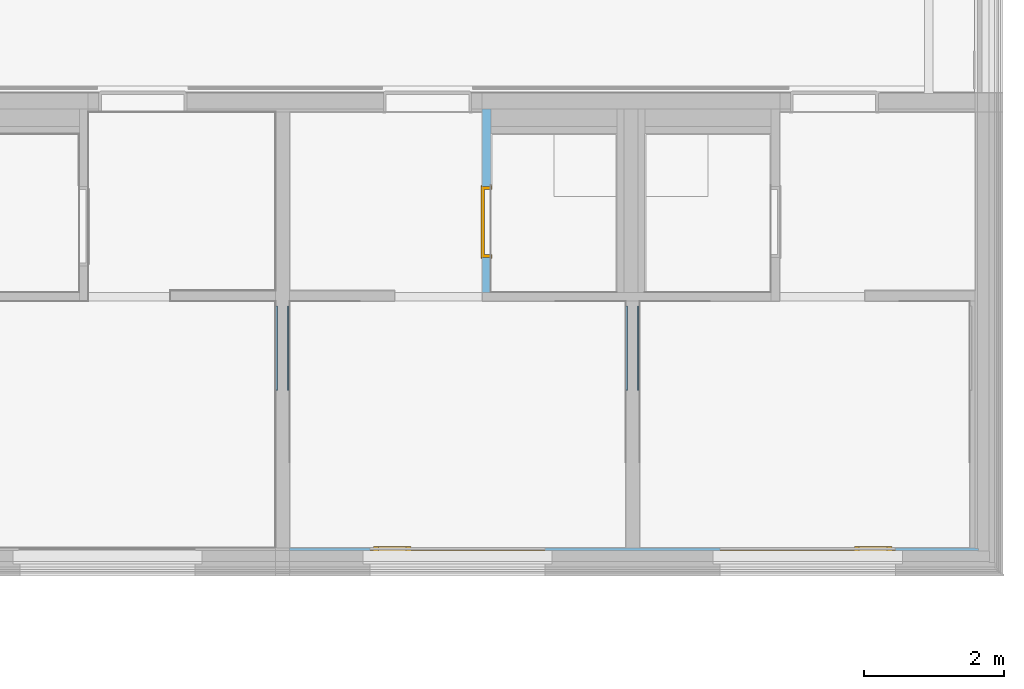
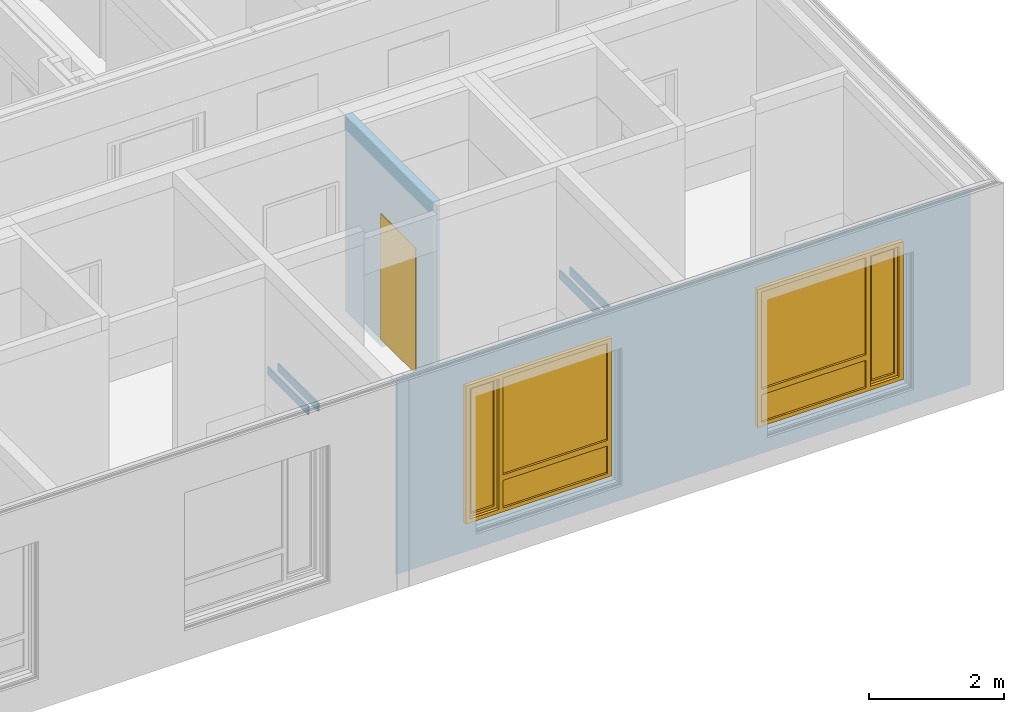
# One storey, part 131 of 222: 4 walls, 2 windows, 1 door, 3 openings, plus 2 elements that do not belong to this part.
"""IFC4 building model written with IfcOpenShell, lengths in metres."""

from ifc_helpers import new_model, entity, si_unit, converted_unit, derived_unit, frame, frame_2d, origin, origin_with_axes, place, context, subcontext, project, spatial, polyline, rectangle, outline, extrude, closed_shell, open_shell, faceted_brep, surface_model, source, transform, mapped, material, type_object, element, fill, save


model = new_model("IFC4")

# Units and contexts
model_context = context("Model", 3, precision=1e-05, world=origin())
body_context = subcontext(model_context, "Body", "Model", "MODEL_VIEW")
ifc_project = project(units=[si_unit("LENGTHUNIT", "METRE"), si_unit("AREAUNIT", "SQUARE_METRE"), si_unit("VOLUMEUNIT", "CUBIC_METRE"), si_unit("MASSUNIT", "GRAM", prefix="KILO"), converted_unit("PLANEANGLEUNIT", "DEGREE", entity("IfcPlaneAngleMeasure", 0.0174532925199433), si_unit("PLANEANGLEUNIT", "RADIAN"), dimensions=[0, 0, 0, 0, 0, 0, 0]), derived_unit("THERMALTRANSMITTANCEUNIT", [(si_unit("POWERUNIT", "WATT"), 1), (si_unit("THERMODYNAMICTEMPERATUREUNIT", "KELVIN"), -1), (si_unit("LENGTHUNIT", "METRE"), -2)]), derived_unit("VOLUMETRICFLOWRATEUNIT", [(si_unit("LENGTHUNIT", "METRE"), 3), (converted_unit("TIMEUNIT", "hour", entity("IfcTimeMeasure", 3600.0), si_unit("TIMEUNIT", "SECOND"), dimensions=[0, 0, 1, 0, 0, 0, 0]), -1), (si_unit("LENGTHUNIT", "METRE"), -1)])], contexts=[model_context])

# Site, building, storey
site_placement = place(None, origin())
site = spatial("IfcSite", under=ifc_project, at=site_placement, Name="Psychiatrie Neubau Wunstorf", CompositionType="ELEMENT")
building_placement = place(site_placement, origin())
building = spatial("IfcBuilding", under=site, at=building_placement, Name="Neubau H2 Stationsgebäude", CompositionType="ELEMENT")
storey_placement = place(building_placement, frame((0.0, 0.0, 3.6)))
storey = spatial("IfcBuildingStorey", under=building, at=storey_placement, Name="H2 Ebene +1", CompositionType="ELEMENT", Elevation=3.6)

# Wall, openings, windows
ifc_material_1 = material(Name="WA-LB")
wall_1_placement = place(storey_placement, frame((105.889, -1.16399999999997, 0.0), z_axis=(0.0, 0.0, 1.0), x_axis=(-1.0, 0.0, 0.0)))
wall_1 = element("IfcWall", 1, at=wall_1_placement, inside=storey, material=ifc_material_1, context=body_context, shape_type="SweptSolid", body=[
    extrude(outline(polyline([(-9.78900000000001, -0.036), (0.0, -0.036), (0.0, 0.0), (-9.83600000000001, 0.0), (-9.83600000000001, -0.0250000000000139), (-9.78900000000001, -0.0250000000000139), (-9.78900000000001, -0.036)])), frame((9.78900000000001, 0.036, 0.0), z_axis=(0.0, 0.0, 1.0), x_axis=(1.0, 0.0, 0.0)), (0.0, 0.0, 1.0), 3.55),
])
opening_1_placement = place(wall_1_placement, frame((1.13899995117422, 0.0, 0.55), z_axis=(0.0, 1.0, 0.0), x_axis=(0.0, 0.0, 1.0)))
opening_1 = element("IfcOpeningElement", 2, at=opening_1_placement, cuts=wall_1, Name="Fensteröffnung", ObjectType="Opening", context=body_context, shape_type="SweptSolid", body=[
    extrude(outline(polyline([(2.5, 2.5), (2.5, 0.0), (0.0, 0.0), (0.0, 2.5), (2.5, 2.5)])), origin_with_axes(), (0.0, 0.0, 1.0), 0.036),
])
opening_2_placement = place(wall_1_placement, frame((6.13899995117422, 0.0, 0.55), z_axis=(0.0, 1.0, 0.0), x_axis=(0.0, 0.0, 1.0)))
opening_2 = element("IfcOpeningElement", 3, at=opening_2_placement, cuts=wall_1, Name="Fensteröffnung", ObjectType="Opening", context=body_context, shape_type="SweptSolid", body=[
    extrude(outline(polyline([(2.5, 2.5), (2.5, 0.0), (0.0, 0.0), (0.0, 2.5), (2.5, 2.5)])), origin_with_axes(), (0.0, 0.0, 1.0), 0.036),
])
shared_shape_1 = source(origin_with_axes(), body_context, "Body", "SurfaceModel", [
    surface_model("IfcShellBasedSurfaceModel", [(0.0, 0.0, 2.5), (0.07, 0.0, 2.5), (0.07, 0.0, 0.0), (0.0, 0.0, 0.0), (0.0, 0.0699999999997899, 0.0), (0.07, 0.0699999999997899, 0.0), (0.07, 0.0699999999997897, 2.5), (0.0, 0.0699999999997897, 2.5)], [closed_shell([[[0, 1, 2, 3]], [[4, 5, 6, 7]], [[3, 4, 7, 0]], [[2, 5, 4, 3]], [[1, 6, 5, 2]], [[0, 7, 6, 1]]], orient=[[False], [False], [False], [False], [False], [False]])]),
    surface_model("IfcShellBasedSurfaceModel", [(2.43, 0.0, 2.5), (2.5, 0.0, 2.5), (2.5, 0.0, 0.0), (2.43, 0.0, 0.0), (2.43, 0.0699999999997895, 0.0), (2.5, 0.0699999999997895, 0.0), (2.5, 0.069999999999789, 2.5), (2.43, 0.069999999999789, 2.5)], [closed_shell([[[0, 1, 2, 3]], [[4, 5, 6, 7]], [[3, 4, 7, 0]], [[2, 5, 4, 3]], [[1, 6, 5, 2]], [[0, 7, 6, 1]]], orient=[[False], [False], [False], [False], [False], [False]])]),
    surface_model("IfcShellBasedSurfaceModel", [(0.07, 0.0, 0.07), (2.43, 0.0, 0.07), (2.43, 0.0, 0.0), (0.07, 0.0, 0.0), (0.07, 0.0699999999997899, 0.0), (2.43, 0.0699999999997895, 0.0), (2.43, 0.0699999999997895, 0.07), (0.07, 0.0699999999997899, 0.07)], [closed_shell([[[0, 1, 2, 3]], [[4, 5, 6, 7]], [[3, 4, 7, 0]], [[2, 5, 4, 3]], [[1, 6, 5, 2]], [[0, 7, 6, 1]]], orient=[[False], [False], [False], [False], [False], [False]])]),
    surface_model("IfcShellBasedSurfaceModel", [(0.07, 0.0, 2.5), (2.43, 0.0, 2.5), (2.43, 0.0, 2.43), (0.07, 0.0, 2.43), (0.07, 0.0699999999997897, 2.43), (2.43, 0.069999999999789, 2.43), (2.43, 0.069999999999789, 2.5), (0.07, 0.0699999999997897, 2.5)], [closed_shell([[[0, 1, 2, 3]], [[4, 5, 6, 7]], [[3, 4, 7, 0]], [[2, 5, 4, 3]], [[1, 6, 5, 2]], [[0, 7, 6, 1]]], orient=[[False], [False], [False], [False], [False], [False]])]),
    surface_model("IfcShellBasedSurfaceModel", [(0.565714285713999, 0.0, 2.43), (0.635714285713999, 0.0, 2.43), (0.635714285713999, 0.0, 0.07), (0.565714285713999, 0.0, 0.07), (0.565714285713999, 0.0699999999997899, 0.07), (0.635714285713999, 0.0699999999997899, 0.07), (0.635714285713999, 0.0699999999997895, 2.43), (0.565714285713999, 0.0699999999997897, 2.43)], [closed_shell([[[0, 1, 2, 3]], [[4, 5, 6, 7]], [[3, 4, 7, 0]], [[2, 5, 4, 3]], [[1, 6, 5, 2]], [[0, 7, 6, 1]]], orient=[[False], [False], [False], [False], [False], [False]])]),
    surface_model("IfcShellBasedSurfaceModel", [(0.05, -0.0500000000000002, 2.45), (0.12, -0.0500000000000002, 2.45), (0.12, -0.05, 0.05), (0.05, -0.05, 0.05), (0.05, 0.0199999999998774, 0.05), (0.12, 0.0199999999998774, 0.05), (0.12, 0.0199999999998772, 2.45), (0.05, 0.0199999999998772, 2.45)], [closed_shell([[[0, 1, 2, 3]], [[4, 5, 6, 7]], [[3, 4, 7, 0]], [[2, 5, 4, 3]], [[1, 6, 5, 2]], [[0, 7, 6, 1]]], orient=[[False], [False], [False], [False], [False], [False]])]),
    surface_model("IfcShellBasedSurfaceModel", [(0.515714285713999, -0.0500000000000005, 2.45), (0.585714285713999, -0.0500000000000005, 2.45), (0.585714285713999, -0.0500000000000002, 0.05), (0.515714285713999, -0.0500000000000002, 0.05), (0.515714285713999, 0.0199999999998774, 0.05), (0.585714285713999, 0.0199999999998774, 0.05), (0.585714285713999, 0.019999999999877, 2.45), (0.515714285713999, 0.019999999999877, 2.45)], [closed_shell([[[0, 1, 2, 3]], [[4, 5, 6, 7]], [[3, 4, 7, 0]], [[2, 5, 4, 3]], [[1, 6, 5, 2]], [[0, 7, 6, 1]]], orient=[[False], [False], [False], [False], [False], [False]])]),
    surface_model("IfcShellBasedSurfaceModel", [(0.12, -0.05, 0.12), (0.515714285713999, -0.0500000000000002, 0.12), (0.515714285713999, -0.0500000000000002, 0.05), (0.12, -0.05, 0.05), (0.12, 0.0199999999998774, 0.05), (0.515714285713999, 0.0199999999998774, 0.05), (0.515714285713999, 0.0199999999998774, 0.12), (0.12, 0.0199999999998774, 0.12)], [closed_shell([[[0, 1, 2, 3]], [[4, 5, 6, 7]], [[3, 4, 7, 0]], [[2, 5, 4, 3]], [[1, 6, 5, 2]], [[0, 7, 6, 1]]], orient=[[False], [False], [False], [False], [False], [False]])]),
    surface_model("IfcShellBasedSurfaceModel", [(0.12, -0.0500000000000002, 2.45), (0.515714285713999, -0.0500000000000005, 2.45), (0.515714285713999, -0.0500000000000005, 2.38), (0.12, -0.0500000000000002, 2.38), (0.12, 0.0199999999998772, 2.38), (0.515714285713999, 0.019999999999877, 2.38), (0.515714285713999, 0.019999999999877, 2.45), (0.12, 0.0199999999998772, 2.45)], [closed_shell([[[0, 1, 2, 3]], [[4, 5, 6, 7]], [[3, 4, 7, 0]], [[2, 5, 4, 3]], [[1, 6, 5, 2]], [[0, 7, 6, 1]]], orient=[[False], [False], [False], [False], [False], [False]])]),
    surface_model("IfcShellBasedSurfaceModel", [(0.635714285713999, 0.0, 0.67), (2.43, 0.0, 0.67), (2.43, 0.0, 0.57), (0.635714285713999, 0.0, 0.57), (0.635714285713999, 0.0699999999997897, 0.57), (2.43, 0.0699999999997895, 0.57), (2.43, 0.0699999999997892, 0.67), (0.635714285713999, 0.0699999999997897, 0.67)], [closed_shell([[[0, 1, 2, 3]], [[4, 5, 6, 7]], [[3, 4, 7, 0]], [[2, 5, 4, 3]], [[1, 6, 5, 2]], [[0, 7, 6, 1]]], orient=[[False], [False], [False], [False], [False], [False]])]),
    surface_model("IfcShellBasedSurfaceModel", [(0.12, -0.0150000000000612, 0.12), (0.12, -0.0150000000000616, 2.38), (0.515714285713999, -0.0150000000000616, 2.38), (0.515714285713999, -0.0150000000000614, 0.12)], [open_shell([[[0, 1, 2, 3]]], orient=[[False]])]),
    surface_model("IfcShellBasedSurfaceModel", [(0.635714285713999, 0.0349999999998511, 0.07), (0.635714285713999, 0.0349999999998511, 0.57), (2.43, 0.0349999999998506, 0.57), (2.43, 0.0349999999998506, 0.07)], [open_shell([[[0, 1, 2, 3]]], orient=[[False]])]),
    surface_model("IfcShellBasedSurfaceModel", [(0.635714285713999, 0.0349999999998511, 0.67), (0.635714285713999, 0.0349999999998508, 2.43), (2.43, 0.0349999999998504, 2.43), (2.43, 0.0349999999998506, 0.67)], [open_shell([[[0, 1, 2, 3]]], orient=[[False]])]),
])
window_1_placement = place(opening_1_placement, frame((0.0, 0.0, 0.03), z_axis=(1.0, 0.0, 0.0), x_axis=(0.0, 1.0, 0.0)))
window_1 = element("IfcWindow", 4, at=window_1_placement, inside=storey, Name="Fenster", OverallHeight=2.5, OverallWidth=2.5, PartitioningType="USERDEFINED", PredefinedType="WINDOW", context=body_context, shape_type="MappedRepresentation", body=[
    mapped(shared_shape_1, transform((0.0, 0.0, 0.0), x_axis=(1.0, 0.0, 0.0), y_axis=(0.0, 1.0, 0.0), z_axis=(0.0, 0.0, 1.0), scale=1.0)),
])
fill(opening_1, window_1)
shared_shape_2 = source(origin_with_axes(), body_context, "Body", "SurfaceModel", [
    surface_model("IfcShellBasedSurfaceModel", [(2.5, 0.0, 2.5), (2.5, 0.0, 0.0), (2.43, 0.0, 0.0), (2.43, 0.0, 2.5), (2.5, 0.0699999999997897, 0.0), (2.5, 0.0699999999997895, 2.5), (2.43, 0.0699999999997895, 2.5), (2.43, 0.0699999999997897, 0.0)], [closed_shell([[[0, 1, 2, 3]], [[4, 5, 6, 7]], [[1, 0, 5, 4]], [[2, 1, 4, 7]], [[3, 2, 7, 6]], [[0, 3, 6, 5]]], orient=[[False], [False], [False], [False], [False], [False]])]),
    surface_model("IfcShellBasedSurfaceModel", [(0.07, 0.0, 2.5), (0.07, 0.0, 0.0), (0.0, 0.0, 0.0), (0.0, 0.0, 2.5), (0.07, 0.0699999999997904, 0.0), (0.07, 0.0699999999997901, 2.5), (0.0, 0.0699999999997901, 2.5), (0.0, 0.0699999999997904, 0.0)], [closed_shell([[[0, 1, 2, 3]], [[4, 5, 6, 7]], [[1, 0, 5, 4]], [[2, 1, 4, 7]], [[3, 2, 7, 6]], [[0, 3, 6, 5]]], orient=[[False], [False], [False], [False], [False], [False]])]),
    surface_model("IfcShellBasedSurfaceModel", [(2.43, 0.0, 0.07), (2.43, 0.0, 0.0), (0.07, 0.0, 0.0), (0.07, 0.0, 0.07), (2.43, 0.0699999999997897, 0.0), (2.43, 0.0699999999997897, 0.07), (0.07, 0.0699999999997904, 0.07), (0.07, 0.0699999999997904, 0.0)], [closed_shell([[[0, 1, 2, 3]], [[4, 5, 6, 7]], [[1, 0, 5, 4]], [[2, 1, 4, 7]], [[3, 2, 7, 6]], [[0, 3, 6, 5]]], orient=[[False], [False], [False], [False], [False], [False]])]),
    surface_model("IfcShellBasedSurfaceModel", [(2.43, 0.0, 2.5), (2.43, 0.0, 2.43), (0.07, 0.0, 2.43), (0.07, 0.0, 2.5), (2.43, 0.0699999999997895, 2.43), (2.43, 0.0699999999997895, 2.5), (0.07, 0.0699999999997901, 2.5), (0.07, 0.0699999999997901, 2.43)], [closed_shell([[[0, 1, 2, 3]], [[4, 5, 6, 7]], [[1, 0, 5, 4]], [[2, 1, 4, 7]], [[3, 2, 7, 6]], [[0, 3, 6, 5]]], orient=[[False], [False], [False], [False], [False], [False]])]),
    surface_model("IfcShellBasedSurfaceModel", [(1.934285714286, 0.0, 2.43), (1.934285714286, 0.0, 0.07), (1.864285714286, 0.0, 0.07), (1.864285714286, 0.0, 2.43), (1.934285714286, 0.0699999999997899, 0.07), (1.934285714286, 0.0699999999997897, 2.43), (1.864285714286, 0.0699999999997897, 2.43), (1.864285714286, 0.0699999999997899, 0.07)], [closed_shell([[[0, 1, 2, 3]], [[4, 5, 6, 7]], [[1, 0, 5, 4]], [[2, 1, 4, 7]], [[3, 2, 7, 6]], [[0, 3, 6, 5]]], orient=[[False], [False], [False], [False], [False], [False]])]),
    surface_model("IfcShellBasedSurfaceModel", [(2.45, -0.0500000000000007, 2.45), (2.45, -0.0500000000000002, 0.05), (2.38, -0.0500000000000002, 0.05), (2.38, -0.0500000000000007, 2.45), (2.45, 0.0199999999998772, 0.05), (2.45, 0.019999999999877, 2.45), (2.38, 0.019999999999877, 2.45), (2.38, 0.0199999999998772, 0.05)], [closed_shell([[[0, 1, 2, 3]], [[4, 5, 6, 7]], [[1, 0, 5, 4]], [[2, 1, 4, 7]], [[3, 2, 7, 6]], [[0, 3, 6, 5]]], orient=[[False], [False], [False], [False], [False], [False]])]),
    surface_model("IfcShellBasedSurfaceModel", [(1.984285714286, -0.0500000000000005, 2.45), (1.984285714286, -0.0500000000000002, 0.05), (1.914285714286, -0.0500000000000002, 0.05), (1.914285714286, -0.0500000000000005, 2.45), (1.984285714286, 0.0199999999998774, 0.05), (1.984285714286, 0.019999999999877, 2.45), (1.914285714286, 0.019999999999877, 2.45), (1.914285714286, 0.0199999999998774, 0.05)], [closed_shell([[[0, 1, 2, 3]], [[4, 5, 6, 7]], [[1, 0, 5, 4]], [[2, 1, 4, 7]], [[3, 2, 7, 6]], [[0, 3, 6, 5]]], orient=[[False], [False], [False], [False], [False], [False]])]),
    surface_model("IfcShellBasedSurfaceModel", [(2.38, -0.0500000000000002, 0.12), (2.38, -0.0500000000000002, 0.05), (1.984285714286, -0.0500000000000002, 0.05), (1.984285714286, -0.0500000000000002, 0.12), (2.38, 0.0199999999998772, 0.05), (2.38, 0.0199999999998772, 0.12), (1.984285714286, 0.0199999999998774, 0.12), (1.984285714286, 0.0199999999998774, 0.05)], [closed_shell([[[0, 1, 2, 3]], [[4, 5, 6, 7]], [[1, 0, 5, 4]], [[2, 1, 4, 7]], [[3, 2, 7, 6]], [[0, 3, 6, 5]]], orient=[[False], [False], [False], [False], [False], [False]])]),
    surface_model("IfcShellBasedSurfaceModel", [(2.38, -0.0500000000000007, 2.45), (2.38, -0.0500000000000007, 2.38), (1.984285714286, -0.0500000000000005, 2.38), (1.984285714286, -0.0500000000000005, 2.45), (2.38, 0.019999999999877, 2.38), (2.38, 0.019999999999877, 2.45), (1.984285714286, 0.019999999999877, 2.45), (1.984285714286, 0.019999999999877, 2.38)], [closed_shell([[[0, 1, 2, 3]], [[4, 5, 6, 7]], [[1, 0, 5, 4]], [[2, 1, 4, 7]], [[3, 2, 7, 6]], [[0, 3, 6, 5]]], orient=[[False], [False], [False], [False], [False], [False]])]),
    surface_model("IfcShellBasedSurfaceModel", [(1.864285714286, 0.0, 0.67), (1.864285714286, 0.0, 0.57), (0.07, 0.0, 0.57), (0.07, 0.0, 0.67), (1.864285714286, 0.0699999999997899, 0.57), (1.864285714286, 0.0699999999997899, 0.67), (0.07, 0.0699999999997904, 0.67), (0.07, 0.0699999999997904, 0.57)], [closed_shell([[[0, 1, 2, 3]], [[4, 5, 6, 7]], [[1, 0, 5, 4]], [[2, 1, 4, 7]], [[3, 2, 7, 6]], [[0, 3, 6, 5]]], orient=[[False], [False], [False], [False], [False], [False]])]),
    surface_model("IfcShellBasedSurfaceModel", [(2.38, -0.0150000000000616, 0.12), (1.984285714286, -0.0150000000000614, 0.12), (1.984285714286, -0.0150000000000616, 2.38), (2.38, -0.0150000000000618, 2.38)], [open_shell([[[0, 1, 2, 3]]], orient=[[False]])]),
    surface_model("IfcShellBasedSurfaceModel", [(1.864285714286, 0.0349999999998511, 0.07), (0.07, 0.0349999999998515, 0.07), (0.07, 0.0349999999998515, 0.57), (1.864285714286, 0.0349999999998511, 0.57)], [open_shell([[[0, 1, 2, 3]]], orient=[[False]])]),
    surface_model("IfcShellBasedSurfaceModel", [(1.864285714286, 0.0349999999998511, 0.67), (0.07, 0.0349999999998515, 0.67), (0.07, 0.0349999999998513, 2.43), (1.864285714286, 0.0349999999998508, 2.43)], [open_shell([[[0, 1, 2, 3]]], orient=[[False]])]),
])
window_2_placement = place(opening_2_placement, frame((0.0, 0.0, 0.03), z_axis=(1.0, 0.0, 0.0), x_axis=(0.0, 1.0, 0.0)))
window_2 = element("IfcWindow", 5, at=window_2_placement, inside=storey, Name="Fenster", OverallHeight=2.5, OverallWidth=2.5, PartitioningType="USERDEFINED", PredefinedType="WINDOW", context=body_context, shape_type="MappedRepresentation", body=[
    mapped(shared_shape_2, transform((0.0, 0.0, 0.0), x_axis=(1.0, 0.0, 0.0), y_axis=(0.0, 1.0, 0.0), z_axis=(0.0, 0.0, 1.0), scale=1.0)),
])
fill(opening_2, window_2)

# Wall, opening, door
ifc_material_2 = material(Name="WI-LB")
wall_2_placement = place(storey_placement, frame((98.85, 5.1005, 0.0), z_axis=(0.0, 0.0, 1.0), x_axis=(0.0, -1.0, 0.0)))
wall_2 = element("IfcWall", 6, at=wall_2_placement, inside=storey, material=ifc_material_2, context=body_context, shape_type="SweptSolid", body=[
    extrude(rectangle(XDim=2.61499999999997, YDim=0.125, at=frame_2d((1.30749999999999, 0.0625), x_axis=(1.0, 0.0))), origin_with_axes(), (0.0, 0.0, 1.0), 3.55),
])
opening_3_placement = place(wall_2_placement, frame((2.11499999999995, 0.125, 0.0), z_axis=(0.0, -1.0, 0.0), x_axis=(0.0, 0.0, 1.0)))
opening_3 = element("IfcOpeningElement", 7, at=opening_3_placement, cuts=wall_2, Name="Türöffnung", ObjectType="Opening", context=body_context, shape_type="SweptSolid", body=[
    extrude(outline(polyline([(2.41, 1.01), (2.41, 0.0), (0.0, 0.0), (0.0, 1.01), (2.41, 1.01)])), origin_with_axes(), (0.0, 0.0, 1.0), 0.125),
])
ifc_material_3 = material(Name="TI-1F-UZ-D-N")
door_type = type_object("IfcDoorType", Name="SMT", OperationType="SINGLE_SWING_RIGHT", ParameterTakesPrecedence=False, PredefinedType="DOOR")
shared_shape_3 = source(origin_with_axes(), body_context, "Body", "Brep", [
    faceted_brep([(1.05, 0.0125000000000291, 0.0), (1.05, 0.112500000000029, 0.0), (1.01, 0.112500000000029, 0.0), (1.01, 0.0125000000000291, 0.0), (1.05, 0.112500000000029, 3.55), (1.05, 0.0125000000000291, 3.55), (1.01, 0.0125000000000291, 3.55), (1.01, 0.112500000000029, 3.55)], [[[0, 1, 2, 3]], [[4, 5, 6, 7]], [[1, 0, 5, 4]], [[2, 1, 4, 7]], [[3, 2, 7, 6]], [[0, 3, 6, 5]]], orient=[[False], [False], [False], [False], [False], [False]]),
    faceted_brep([(0.0, 0.0125000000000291, 0.0), (0.0, 0.112500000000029, 0.0), (-0.0400000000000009, 0.112500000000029, 0.0), (-0.0400000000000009, 0.0125000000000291, 0.0), (0.0, 0.112500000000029, 3.55), (0.0, 0.0125000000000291, 3.55), (-0.0400000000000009, 0.0125000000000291, 3.55), (-0.0400000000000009, 0.112500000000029, 3.55)], [[[0, 1, 2, 3]], [[4, 5, 6, 7]], [[1, 0, 5, 4]], [[2, 1, 4, 7]], [[3, 2, 7, 6]], [[0, 3, 6, 5]]], orient=[[False], [False], [False], [False], [False], [False]]),
    faceted_brep([(1.01, 0.0125000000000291, 2.41), (1.01, 0.112500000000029, 2.41), (0.0, 0.112500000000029, 2.41), (0.0, 0.0125000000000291, 2.41), (1.01, 0.112500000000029, 2.45), (1.01, 0.0125000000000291, 2.45), (0.0, 0.0125000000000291, 2.45), (0.0, 0.112500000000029, 2.45)], [[[0, 1, 2, 3]], [[4, 5, 6, 7]], [[1, 0, 5, 4]], [[2, 1, 4, 7]], [[3, 2, 7, 6]], [[0, 3, 6, 5]]], orient=[[False], [False], [False], [False], [False], [False]]),
])
shared_shape_4 = source(origin_with_axes(), body_context, "Body", "Brep", [
    faceted_brep([(1.01, -0.0149999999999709, 2.41), (1.01, -0.0149999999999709, 0.15), (0.969999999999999, -0.0149999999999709, 0.15), (0.969999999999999, -0.0149999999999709, 2.41), (1.01, 0.140000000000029, 0.15), (1.01, 0.140000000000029, 2.41), (0.969999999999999, 0.140000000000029, 2.41), (0.969999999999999, 0.140000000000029, 0.15)], [[[0, 1, 2, 3]], [[4, 5, 6, 7]], [[1, 0, 5, 4]], [[2, 1, 4, 7]], [[3, 2, 7, 6]], [[0, 3, 6, 5]]], orient=[[False], [False], [False], [False], [False], [False]]),
    faceted_brep([(1.01, -0.0149999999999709, 2.425), (1.025, -0.0149999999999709, 2.425), (1.025, -0.0149999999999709, 0.15), (1.01, -0.0149999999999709, 0.15), (1.01, 0.0, 0.15), (1.025, 0.0, 0.15), (1.025, 0.0, 2.425), (1.01, 0.0, 2.425)], [[[0, 1, 2, 3]], [[4, 5, 6, 7]], [[3, 4, 7, 0]], [[2, 5, 4, 3]], [[1, 6, 5, 2]], [[0, 7, 6, 1]]], orient=[[False], [False], [False], [False], [False], [False]]),
    faceted_brep([(1.01, 0.125000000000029, 2.425), (1.025, 0.125000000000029, 2.425), (1.025, 0.125000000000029, 0.15), (1.01, 0.125000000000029, 0.15), (1.01, 0.140000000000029, 0.15), (1.025, 0.140000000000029, 0.15), (1.025, 0.140000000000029, 2.425), (1.01, 0.140000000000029, 2.425)], [[[0, 1, 2, 3]], [[4, 5, 6, 7]], [[3, 4, 7, 0]], [[2, 5, 4, 3]], [[1, 6, 5, 2]], [[0, 7, 6, 1]]], orient=[[False], [False], [False], [False], [False], [False]]),
    faceted_brep([(0.0399999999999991, -0.0149999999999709, 2.41), (0.0399999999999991, -0.0149999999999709, 0.15), (0.0, -0.0149999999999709, 0.15), (0.0, -0.0149999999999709, 2.41), (0.0399999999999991, 0.140000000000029, 0.15), (0.0399999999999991, 0.140000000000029, 2.41), (0.0, 0.140000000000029, 2.41), (0.0, 0.140000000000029, 0.15)], [[[0, 1, 2, 3]], [[4, 5, 6, 7]], [[1, 0, 5, 4]], [[2, 1, 4, 7]], [[3, 2, 7, 6]], [[0, 3, 6, 5]]], orient=[[False], [False], [False], [False], [False], [False]]),
    faceted_brep([(0.0, -0.0149999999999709, 2.425), (0.0, -0.0149999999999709, 0.15), (-0.0150000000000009, -0.0149999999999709, 0.15), (-0.0150000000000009, -0.0149999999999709, 2.425), (0.0, 0.0, 0.15), (0.0, 0.0, 2.425), (-0.0150000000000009, 0.0, 2.425), (-0.0150000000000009, 0.0, 0.15)], [[[0, 1, 2, 3]], [[4, 5, 6, 7]], [[1, 0, 5, 4]], [[2, 1, 4, 7]], [[3, 2, 7, 6]], [[0, 3, 6, 5]]], orient=[[False], [False], [False], [False], [False], [False]]),
    faceted_brep([(0.0, 0.125000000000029, 2.425), (0.0, 0.125000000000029, 0.15), (-0.0150000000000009, 0.125000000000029, 0.15), (-0.0150000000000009, 0.125000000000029, 2.425), (0.0, 0.140000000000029, 0.15), (0.0, 0.140000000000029, 2.425), (-0.0150000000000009, 0.140000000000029, 2.425), (-0.0150000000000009, 0.140000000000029, 0.15)], [[[0, 1, 2, 3]], [[4, 5, 6, 7]], [[1, 0, 5, 4]], [[2, 1, 4, 7]], [[3, 2, 7, 6]], [[0, 3, 6, 5]]], orient=[[False], [False], [False], [False], [False], [False]]),
    faceted_brep([(0.969999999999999, -0.0149999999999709, 2.41), (0.969999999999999, -0.0149999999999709, 2.37), (0.0399999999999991, -0.0149999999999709, 2.37), (0.0399999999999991, -0.0149999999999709, 2.41), (0.969999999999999, 0.140000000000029, 2.37), (0.969999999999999, 0.140000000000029, 2.41), (0.0399999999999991, 0.140000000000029, 2.41), (0.0399999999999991, 0.140000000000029, 2.37)], [[[0, 1, 2, 3]], [[4, 5, 6, 7]], [[1, 0, 5, 4]], [[2, 1, 4, 7]], [[3, 2, 7, 6]], [[0, 3, 6, 5]]], orient=[[False], [False], [False], [False], [False], [False]]),
    faceted_brep([(1.01, -0.0149999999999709, 2.425), (1.01, -0.0149999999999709, 2.41), (0.0, -0.0149999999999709, 2.41), (0.0, -0.0149999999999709, 2.425), (1.01, 0.0, 2.41), (1.01, 0.0, 2.425), (0.0, 0.0, 2.425), (0.0, 0.0, 2.41)], [[[0, 1, 2, 3]], [[4, 5, 6, 7]], [[1, 0, 5, 4]], [[2, 1, 4, 7]], [[3, 2, 7, 6]], [[0, 3, 6, 5]]], orient=[[False], [False], [False], [False], [False], [False]]),
    faceted_brep([(1.01, 0.125000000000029, 2.425), (1.01, 0.125000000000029, 2.41), (0.0, 0.125000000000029, 2.41), (0.0, 0.125000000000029, 2.425), (1.01, 0.140000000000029, 2.41), (1.01, 0.140000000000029, 2.425), (0.0, 0.140000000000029, 2.425), (0.0, 0.140000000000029, 2.41)], [[[0, 1, 2, 3]], [[4, 5, 6, 7]], [[1, 0, 5, 4]], [[2, 1, 4, 7]], [[3, 2, 7, 6]], [[0, 3, 6, 5]]], orient=[[False], [False], [False], [False], [False], [False]]),
    faceted_brep([(0.984999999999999, 0.0910000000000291, 2.385), (0.984999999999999, 0.0910000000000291, 0.15), (0.0249999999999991, 0.0910000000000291, 0.15), (0.0249999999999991, 0.0910000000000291, 2.385), (0.984999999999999, 0.141000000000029, 0.15), (0.984999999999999, 0.141000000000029, 2.385), (0.0249999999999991, 0.141000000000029, 2.385), (0.0249999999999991, 0.141000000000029, 0.15)], [[[0, 1, 2, 3]], [[4, 5, 6, 7]], [[1, 0, 5, 4]], [[2, 1, 4, 7]], [[3, 2, 7, 6]], [[0, 3, 6, 5]]], orient=[[False], [False], [False], [False], [False], [False]]),
])
door_placement = place(opening_3_placement, frame((0.0, 0.0, 0.0), z_axis=(1.0, 0.0, 0.0), x_axis=(0.0, 1.0, 0.0)))
door = element("IfcDoor", 8, at=door_placement, inside=storey, type_object=door_type, material=ifc_material_3, Name="SMT", OverallHeight=2.41, OverallWidth=1.01, context=body_context, shape_type="MappedRepresentation", body=[
    mapped(shared_shape_3, transform((0.0, 0.0, 0.0), x_axis=(1.0, 0.0, 0.0), y_axis=(0.0, 1.0, 0.0), z_axis=(0.0, 0.0, 1.0), scale=1.0)),
    mapped(shared_shape_4, transform((0.0, 0.0, 0.0), x_axis=(1.0, 0.0, 0.0), y_axis=(0.0, 1.0, 0.0), z_axis=(0.0, 0.0, 1.0), scale=1.0)),
])
fill(opening_3, door)

# Walls
for number, where, name in (
    (9, (96.075, 1.08720000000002, 1.575), "WV 1.1"),
    (10, (95.9, 1.08720000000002, 1.575), "WV 1.1"),
    (11, (101.075, 1.08720000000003, 1.575), "WV 1.1"),
    (12, (100.9, 1.08720000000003, 1.575), "WV 1.1"),
):
    element("IfcWall", number, at=place(storey_placement, frame(where)), inside=storey, Name=name, context=body_context, shape_type="Brep", body=[
        faceted_brep([(0.025, 1.2, 0.0), (0.0, 1.2, 0.0), (0.0, 0.0, 0.0), (0.025, 0.0, 0.0), (0.0, 1.2, 0.15), (0.025, 1.2, 0.15), (0.025, 0.0, 0.15), (0.0, 0.0, 0.15)], [[[0, 1, 2, 3]], [[4, 5, 6, 7]], [[1, 0, 5, 4]], [[2, 1, 4, 7]], [[3, 2, 7, 6]], [[0, 3, 6, 5]]], orient=[[False], [False], [False], [False], [False], [False]]),
    ])

save(model, "model.ifc")
